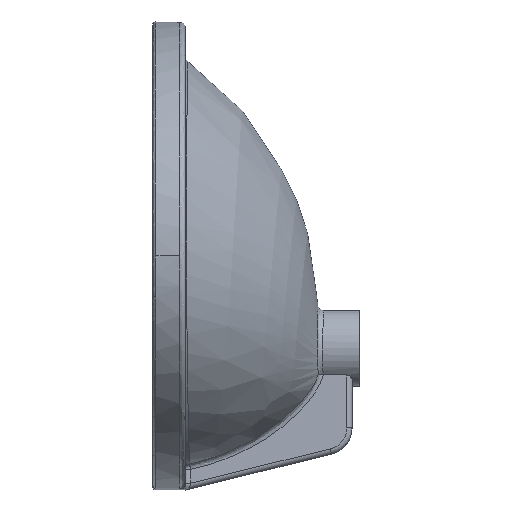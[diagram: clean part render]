
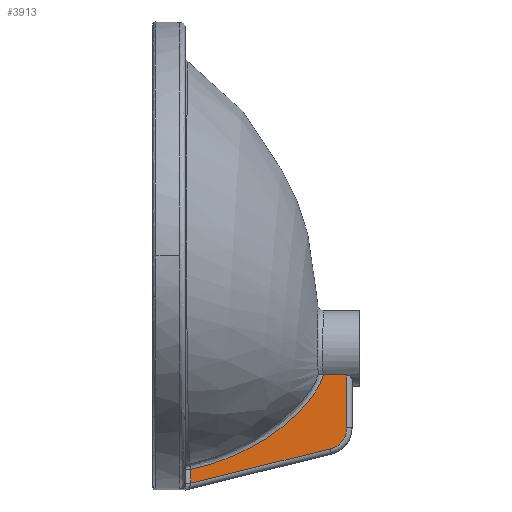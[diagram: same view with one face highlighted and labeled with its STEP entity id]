
A CAD part, left-side view. The second image highlights one B-rep face of the part: STEP entity #3913.
In plain terms, the highlighted planar face has unit normal (-1, -0.033, 0).
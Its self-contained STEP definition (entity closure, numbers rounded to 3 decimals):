
#4 = ORIENTED_EDGE ( 'NONE', *, *, #4070, .T. ) ;
#378 = CARTESIAN_POINT ( 'NONE',  ( -25.627, -164.052, -108.841 ) ) ;
#595 = CARTESIAN_POINT ( 'NONE',  ( -25.887, -156.064, -111.754 ) ) ;
#1040 = DIRECTION ( 'NONE',  ( 0., 0., -1. ) ) ;
#1149 = CARTESIAN_POINT ( 'NONE',  ( -27.161, -117.013, -158.762 ) ) ;
#1256 = CARTESIAN_POINT ( 'NONE',  ( -29.429, -47.498, -193.043 ) ) ;
#1465 = CARTESIAN_POINT ( 'NONE',  ( -28.828, -65.924, -187.067 ) ) ;
#1578 = CARTESIAN_POINT ( 'NONE',  ( -26.604, -134.095, -143.828 ) ) ;
#1906 = EDGE_CURVE ( 'NONE', #7127, #18628, #15530, .T. ) ;
#2188 = EDGE_LOOP ( 'NONE', ( #20885, #14098, #10676, #19794, #10999, #4 ) ) ;
#2484 = CARTESIAN_POINT ( 'NONE',  ( -26.07, -150.473, -123.569 ) ) ;
#2697 = EDGE_CURVE ( 'NONE', #16227, #17570, #8283, .T. ) ;
#2704 =( BOUNDED_CURVE ( )  B_SPLINE_CURVE ( 3, ( #10123, #20495, #378, #6794 ),
 .UNSPECIFIED., .F., .T. ) 
 B_SPLINE_CURVE_WITH_KNOTS ( ( 4, 4 ),
 ( 2.373, 2.402 ),
 .UNSPECIFIED. ) 
 CURVE ( )  GEOMETRIC_REPRESENTATION_ITEM ( )  RATIONAL_B_SPLINE_CURVE ( ( 1., 1., 1., 1. ) ) 
 REPRESENTATION_ITEM ( '' )  );
#3913 = ADVANCED_FACE ( 'NONE', ( #11333 ), #11542, .F. ) ;
#4014 = CARTESIAN_POINT ( 'NONE',  ( -25.871, -156.578, -110.185 ) ) ;
#4070 = EDGE_CURVE ( 'NONE', #12259, #16227, #2704, .T. ) ;
#4128 = CARTESIAN_POINT ( 'NONE',  ( -25.946, -154.262, -116.332 ) ) ;
#4239 = CARTESIAN_POINT ( 'NONE',  ( -26.159, -147.722, -127.674 ) ) ;
#4559 = CARTESIAN_POINT ( 'NONE',  ( -27.826, -96.635, -172.379 ) ) ;
#4663 = CARTESIAN_POINT ( 'NONE',  ( -27.421, -109.062, -164.508 ) ) ;
#4828 = EDGE_CURVE ( 'NONE', #18628, #12259, #9559, .T. ) ;
#4895 = LINE ( 'NONE', #20480, #19127 ) ;
#5152 = CARTESIAN_POINT ( 'NONE',  ( -29.842, -34.837, -208.787 ) ) ;
#5322 = CARTESIAN_POINT ( 'NONE',  ( -25.158, -178.424, -109.333 ) ) ;
#5905 = CARTESIAN_POINT ( 'NONE',  ( -25.863, -156.816, -109.39 ) ) ;
#6063 = EDGE_CURVE ( 'NONE', #17570, #17227, #18038, .T. ) ;
#6109 = CARTESIAN_POINT ( 'NONE',  ( -25.655, -163.199, -177.233 ) ) ;
#6327 = CARTESIAN_POINT ( 'NONE',  ( -25.856, -157.032, -108.59 ) ) ;
#6408 = VECTOR ( 'NONE', #1040, 1000. ) ;
#6430 = CARTESIAN_POINT ( 'NONE',  ( -27.965, -92.364, -174.796 ) ) ;
#6540 = CARTESIAN_POINT ( 'NONE',  ( -29.842, -34.837, -195.985 ) ) ;
#6669 = DIRECTION ( 'NONE',  ( 0.032, -0.971, 0.239 ) ) ;
#6755 = VECTOR ( 'NONE', #7798, 1000. ) ;
#6794 = CARTESIAN_POINT ( 'NONE',  ( -25.856, -157.032, -108.59 ) ) ;
#7127 = VERTEX_POINT ( 'NONE', #7870 ) ;
#7674 = CARTESIAN_POINT ( 'NONE',  ( -26.388, -140.719, -136.714 ) ) ;
#7798 = DIRECTION ( 'NONE',  ( 0., 0., 1. ) ) ;
#7870 = CARTESIAN_POINT ( 'NONE',  ( -25.655, -163.199, -177.233 ) ) ;
#8083 = EDGE_CURVE ( 'NONE', #17227, #7127, #4895, .T. ) ;
#8205 = CARTESIAN_POINT ( 'NONE',  ( -29.026, -59.85, -189.248 ) ) ;
#8283 = B_SPLINE_CURVE_WITH_KNOTS ( 'NONE', 3,
 ( #14284, #5905, #4014, #595, #12636, #20932, #4128, #17612, #2484, #21146, #4239, #10989, #9435, #9325, #16049, #7674, #14390, #1578, #19705, #19918, #9756, #18147, #1149, #15042, #14926, #4663, #16476, #11734, #14816, #4559, #16588, #6430, #18476, #9653, #21674, #1465, #8205, #1256, #16265, #6540 ),
 .UNSPECIFIED., .F., .F.,
 ( 4, 2, 2, 2, 2, 2, 2, 2, 2, 2, 2, 2, 2, 2, 2, 2, 2, 2, 2, 4 ),
 ( 0., 0.002, 0.005, 0.01, 0.02, 0.022, 0.025, 0.03, 0.04, 0.05, 0.06, 0.07, 0.075, 0.08, 0.089, 0.094, 0.099, 0.119, 0.139, 0.159 ),
 .UNSPECIFIED. ) ;
#9325 = CARTESIAN_POINT ( 'NONE',  ( -26.254, -144.82, -131.65 ) ) ;
#9435 = CARTESIAN_POINT ( 'NONE',  ( -26.206, -146.29, -129.681 ) ) ;
#9559 = LINE ( 'NONE', #16280, #6755 ) ;
#9653 = CARTESIAN_POINT ( 'NONE',  ( -28.247, -83.732, -179.387 ) ) ;
#9756 = CARTESIAN_POINT ( 'NONE',  ( -26.914, -124.59, -152.624 ) ) ;
#10123 = CARTESIAN_POINT ( 'NONE',  ( -25.158, -178.424, -109.333 ) ) ;
#10676 = ORIENTED_EDGE ( 'NONE', *, *, #8083, .T. ) ;
#10989 = CARTESIAN_POINT ( 'NONE',  ( -26.19, -146.772, -129.017 ) ) ;
#10999 = ORIENTED_EDGE ( 'NONE', *, *, #4828, .T. ) ;
#11189 = CARTESIAN_POINT ( 'NONE',  ( -25.351, -172.509, -174.944 ) ) ;
#11333 = FACE_OUTER_BOUND ( 'NONE', #2188, .T. ) ;
#11542 = PLANE ( 'NONE',  #16638 ) ;
#11734 = CARTESIAN_POINT ( 'NONE',  ( -27.598, -103.623, -168.138 ) ) ;
#12259 = VERTEX_POINT ( 'NONE', #5322 ) ;
#12636 = CARTESIAN_POINT ( 'NONE',  ( -25.896, -155.788, -112.53 ) ) ;
#13511 = CARTESIAN_POINT ( 'NONE',  ( -29.842, -34.837, -195.985 ) ) ;
#14098 = ORIENTED_EDGE ( 'NONE', *, *, #6063, .T. ) ;
#14281 = CARTESIAN_POINT ( 'NONE',  ( -25.158, -178.424, -157.811 ) ) ;
#14284 = CARTESIAN_POINT ( 'NONE',  ( -25.856, -157.032, -108.59 ) ) ;
#14390 = CARTESIAN_POINT ( 'NONE',  ( -26.458, -138.561, -139.137 ) ) ;
#14600 = CARTESIAN_POINT ( 'NONE',  ( -25.158, -178.424, -157.811 ) ) ;
#14816 = CARTESIAN_POINT ( 'NONE',  ( -27.688, -100.854, -169.875 ) ) ;
#14926 = CARTESIAN_POINT ( 'NONE',  ( -27.333, -111.743, -162.632 ) ) ;
#15042 = CARTESIAN_POINT ( 'NONE',  ( -27.29, -113.072, -161.676 ) ) ;
#15530 =( BOUNDED_CURVE ( )  B_SPLINE_CURVE ( 3, ( #6109, #11189, #17820, #14600 ),
 .UNSPECIFIED., .F., .F. ) 
 B_SPLINE_CURVE_WITH_KNOTS ( ( 4, 4 ),
 ( 1.812, 3.142 ),
 .UNSPECIFIED. ) 
 CURVE ( )  GEOMETRIC_REPRESENTATION_ITEM ( )  RATIONAL_B_SPLINE_CURVE ( ( 1., 0.858, 0.858, 1. ) ) 
 REPRESENTATION_ITEM ( '' )  );
#16049 = CARTESIAN_POINT ( 'NONE',  ( -26.287, -143.813, -132.934 ) ) ;
#16156 = CARTESIAN_POINT ( 'NONE',  ( -29.842, -34.837, -209.976 ) ) ;
#16227 = VERTEX_POINT ( 'NONE', #6327 ) ;
#16265 = CARTESIAN_POINT ( 'NONE',  ( -29.634, -41.22, -194.659 ) ) ;
#16280 = CARTESIAN_POINT ( 'NONE',  ( -25.158, -178.424, -109.495 ) ) ;
#16476 = CARTESIAN_POINT ( 'NONE',  ( -27.465, -107.711, -165.429 ) ) ;
#16509 = DIRECTION ( 'NONE',  ( -0.033, 0.999, 0. ) ) ;
#16588 = CARTESIAN_POINT ( 'NONE',  ( -27.872, -95.216, -173.197 ) ) ;
#16638 = AXIS2_PLACEMENT_3D ( 'NONE', #19843, #18183, #16509 ) ;
#17227 = VERTEX_POINT ( 'NONE', #5152 ) ;
#17570 = VERTEX_POINT ( 'NONE', #13511 ) ;
#17612 = CARTESIAN_POINT ( 'NONE',  ( -26.016, -152.132, -120.746 ) ) ;
#17820 = CARTESIAN_POINT ( 'NONE',  ( -25.158, -178.424, -167.398 ) ) ;
#18038 = LINE ( 'NONE', #16156, #6408 ) ;
#18147 = CARTESIAN_POINT ( 'NONE',  ( -27.078, -119.58, -156.759 ) ) ;
#18183 = DIRECTION ( 'NONE',  ( 0.999, 0.033, 0. ) ) ;
#18476 = CARTESIAN_POINT ( 'NONE',  ( -28.012, -90.931, -175.577 ) ) ;
#18628 = VERTEX_POINT ( 'NONE', #14281 ) ;
#19127 = VECTOR ( 'NONE', #6669, 1000. ) ;
#19705 = CARTESIAN_POINT ( 'NONE',  ( -26.679, -131.786, -146.095 ) ) ;
#19794 = ORIENTED_EDGE ( 'NONE', *, *, #1906, .T. ) ;
#19843 = CARTESIAN_POINT ( 'NONE',  ( -30., -30., 500000. ) ) ;
#19918 = CARTESIAN_POINT ( 'NONE',  ( -26.834, -127.033, -150.493 ) ) ;
#20480 = CARTESIAN_POINT ( 'NONE',  ( 3749.122, -115868.643, 28265.52 ) ) ;
#20495 = CARTESIAN_POINT ( 'NONE',  ( -25.394, -171.183, -109.089 ) ) ;
#20885 = ORIENTED_EDGE ( 'NONE', *, *, #2697, .T. ) ;
#20932 = CARTESIAN_POINT ( 'NONE',  ( -25.925, -154.911, -114.831 ) ) ;
#21146 = CARTESIAN_POINT ( 'NONE',  ( -26.144, -148.19, -126.994 ) ) ;
#21674 = CARTESIAN_POINT ( 'NONE',  ( -28.438, -77.865, -182.137 ) ) ;
